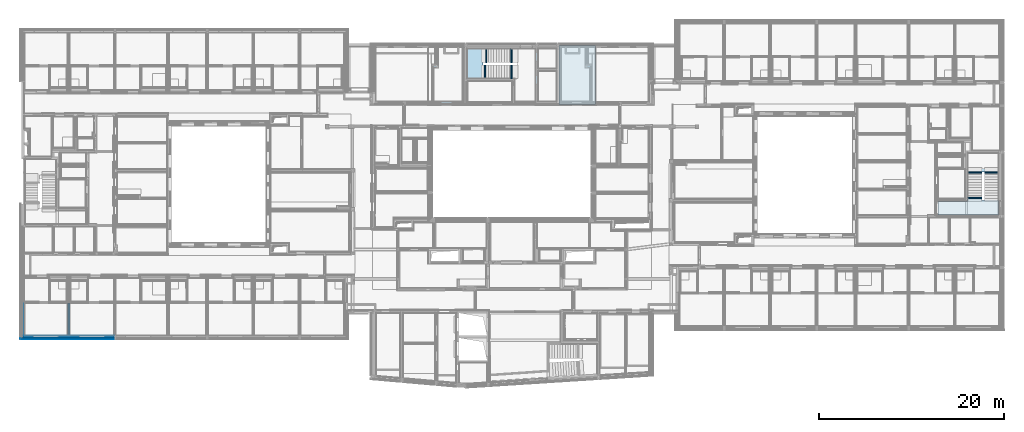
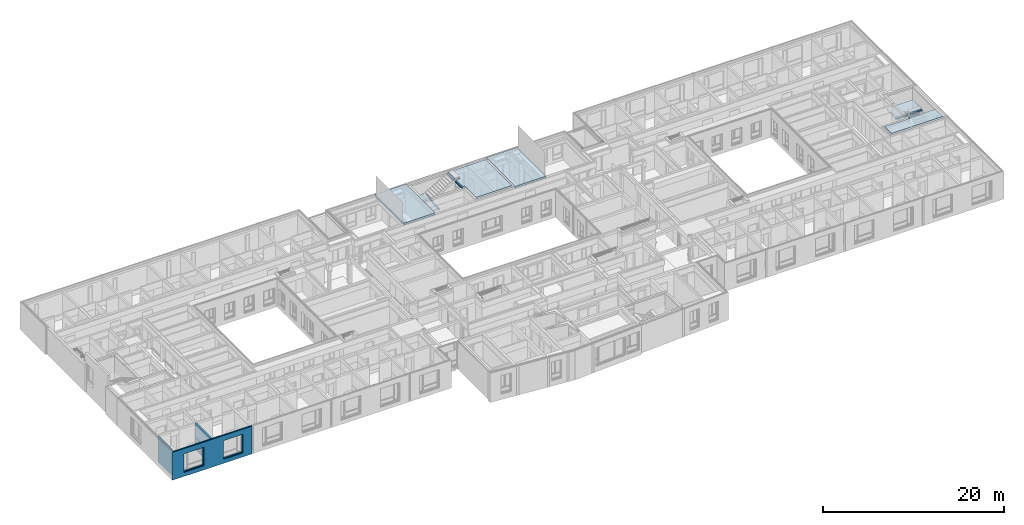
# One storey, part 9 of 222: 13 slabs, 9 walls, 14 openings.
"""IFC4 building model written with IfcOpenShell, lengths in metres."""

from ifc_helpers import new_model, entity, si_unit, converted_unit, derived_unit, frame, frame_2d, origin, origin_with_axes, place, context, subcontext, project, spatial, polyline, rectangle, outline, extrude, clip, bounded_halfspace, material, element, save


model = new_model("IFC4")

# Units and contexts
model_context = context("Model", 3, precision=1e-05, world=origin())
body_context = subcontext(model_context, "Body", "Model", "MODEL_VIEW")
ifc_project = project(units=[si_unit("LENGTHUNIT", "METRE"), si_unit("AREAUNIT", "SQUARE_METRE"), si_unit("VOLUMEUNIT", "CUBIC_METRE"), si_unit("MASSUNIT", "GRAM", prefix="KILO"), converted_unit("PLANEANGLEUNIT", "DEGREE", entity("IfcPlaneAngleMeasure", 0.0174532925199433), si_unit("PLANEANGLEUNIT", "RADIAN"), dimensions=[0, 0, 0, 0, 0, 0, 0]), derived_unit("THERMALTRANSMITTANCEUNIT", [(si_unit("POWERUNIT", "WATT"), 1), (si_unit("THERMODYNAMICTEMPERATUREUNIT", "KELVIN"), -1), (si_unit("LENGTHUNIT", "METRE"), -2)]), derived_unit("VOLUMETRICFLOWRATEUNIT", [(si_unit("LENGTHUNIT", "METRE"), 3), (converted_unit("TIMEUNIT", "hour", entity("IfcTimeMeasure", 3600.0), si_unit("TIMEUNIT", "SECOND"), dimensions=[0, 0, 1, 0, 0, 0, 0]), -1), (si_unit("LENGTHUNIT", "METRE"), -1)])], contexts=[model_context])

# Site, building, storey
site_placement = place(None, origin())
site = spatial("IfcSite", under=ifc_project, at=site_placement, Name="Psychiatrie Neubau Wunstorf", CompositionType="ELEMENT")
building_placement = place(site_placement, origin())
building = spatial("IfcBuilding", under=site, at=building_placement, Name="Neubau H2 Stationsgebäude", CompositionType="ELEMENT")
storey_placement = place(building_placement, frame((0.0, 0.0, 3.6)))
storey = spatial("IfcBuildingStorey", under=building, at=storey_placement, Name="H2 Ebene +1", CompositionType="ELEMENT", Elevation=3.6)

# Slabs
ifc_material_1 = material(Name="STB")
slab_1_placement = place(storey_placement, frame((52.895, 25.6349999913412, 3.55)))
element("IfcSlab", 1, at=slab_1_placement, inside=storey, material=ifc_material_1, PredefinedType="FLOOR", context=body_context, shape_type="SweptSolid", body=[
    extrude(rectangle(XDim=0.15, YDim=1.50000000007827, at=frame_2d((-0.075, -0.750000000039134), x_axis=(-1.0, 0.0))), frame((0.15, 1.50000000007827, 0.0), z_axis=(0.0, 0.0, 1.0), x_axis=(1.0, 0.0, 0.0)), (0.0, 0.0, 1.0), 0.16),
])
ifc_material_2 = material(Name="STB")
slab_2_placement = place(storey_placement, frame((102.369990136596, 12.6667143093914, 3.55)))
element("IfcSlab", 2, at=slab_2_placement, inside=storey, material=ifc_material_2, PredefinedType="FLOOR", context=body_context, shape_type="SweptSolid", body=[
    extrude(rectangle(XDim=0.15, YDim=1.50000986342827, at=frame_2d((0.750004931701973, -0.0749957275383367), x_axis=(0.0, -1.0))), frame((0.0, 0.15, 0.0), z_axis=(0.0, 0.0, 1.0), x_axis=(1.0, 0.0, 0.0)), (0.0, 0.0, 1.0), 0.16),
])
ifc_material_3 = material(Name="Stb")
slab_3_placement = place(storey_placement, frame((102.37, 15.4167214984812, 1.715)))
element("IfcSlab", 3, at=slab_3_placement, inside=storey, material=ifc_material_3, PredefinedType="FLOOR", context=body_context, shape_type="SweptSolid", body=[
    extrude(rectangle(XDim=1.5, YDim=0.15, at=frame_2d((0.75, 0.075), x_axis=(1.0, 0.0))), origin_with_axes(), (0.0, 0.0, 1.0), 0.14),
])
ifc_material_4 = material(Name="Stb")
slab_4_placement = place(storey_placement, frame((49.995, 25.634999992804, 1.715)))
element("IfcSlab", 4, at=slab_4_placement, inside=storey, material=ifc_material_4, PredefinedType="FLOOR", context=body_context, shape_type="SweptSolid", body=[
    extrude(rectangle(XDim=1.49999999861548, YDim=0.15, at=frame_2d((-0.075, 0.749999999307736), x_axis=(0.0, 1.0))), frame((0.15, 0.0, 0.0), z_axis=(0.0, 0.0, 1.0), x_axis=(1.0, 0.0, 0.0)), (0.0, 0.0, 1.0), 0.14),
])
ifc_material_5 = material(Name="STB")
slab_5_placement = place(storey_placement, frame((52.895, 27.3949996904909, 3.55)))
element("IfcSlab", 5, at=slab_5_placement, inside=storey, material=ifc_material_5, PredefinedType="FLOOR", context=body_context, shape_type="SweptSolid", body=[
    extrude(rectangle(XDim=0.15, YDim=1.50000000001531, at=frame_2d((-0.075, -0.750000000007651), x_axis=(-1.0, 0.0))), frame((0.15, 1.50000000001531, 0.0), z_axis=(0.0, 0.0, 1.0), x_axis=(1.0, 0.0, 0.0)), (0.0, 0.0, 1.0), 0.16),
])
ifc_material_6 = material(Name="Stb")
slab_6_placement = place(storey_placement, frame((53.045, 23.1249999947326, 3.55)))
element("IfcSlab", 6, at=slab_6_placement, inside=storey, material=ifc_material_6, PredefinedType="FLOOR", context=body_context, shape_type="SweptSolid", body=[
    extrude(outline(polyline([(4.80500000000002, 5.76999969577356), (0.0, 5.76999969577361), (0.0, 4.26999969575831), (0.485, 4.26999969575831), (0.485, 4.00999999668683), (0.0, 4.00999999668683), (0.0, 2.50999999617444), (0.255000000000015, 2.50999999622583), (0.255000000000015, 0.0), (4.80500000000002, 0.0), (4.80500000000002, 5.76999969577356)])), origin_with_axes(), (0.0, 0.0, 1.0), 0.25),
])
ifc_material_7 = material(Name="Stb")
slab_7_placement = place(storey_placement, frame((99.1389999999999, 10.8749975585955, 3.55)))
element("IfcSlab", 7, at=slab_7_placement, inside=storey, material=ifc_material_7, PredefinedType="FLOOR", context=body_context, shape_type="SweptSolid", body=[
    extrude(outline(polyline([(-3.63575000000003, -1.22293244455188), (2.94525, -1.22293010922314), (2.94525, 0.377069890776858), (1.09524999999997, 0.377069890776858), (1.09524999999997, 0.568791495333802), (-0.404750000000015, 0.568791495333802), (-0.404750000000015, 0.277069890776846), (-3.63575000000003, 0.277069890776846), (-3.63575000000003, -1.22293244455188)])), frame((3.63575000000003, 1.22293244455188, 0.0), z_axis=(0.0, 0.0, 1.0), x_axis=(1.0, 0.0, 0.0)), (0.0, 0.0, 1.0), 0.25),
])
ifc_material_8 = material(Name="H")
slab_8_placement = place(storey_placement, frame((43.9375, 22.8639999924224, 3.51)))
element("IfcSlab", 8, at=slab_8_placement, inside=storey, material=ifc_material_8, PredefinedType="FLOOR", context=body_context, shape_type="SweptSolid", body=[
    extrude(rectangle(XDim=6.39599969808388, YDim=3.96249999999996, at=frame_2d((-1.98124999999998, 3.19799984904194), x_axis=(0.0, 1.0))), frame((3.96249999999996, 0.0, 0.0), z_axis=(0.0, 0.0, 1.0), x_axis=(1.0, 0.0, 0.0)), (0.0, 0.0, 1.0), 0.24),
])
ifc_material_9 = material(Name="H")
slab_9_placement = place(storey_placement, frame((58.1, 22.8639999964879, 3.51)))
element("IfcSlab", 9, at=slab_9_placement, inside=storey, material=ifc_material_9, PredefinedType="FLOOR", context=body_context, shape_type="SweptSolid", body=[
    extrude(rectangle(XDim=3.96250000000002, YDim=6.39599969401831, at=frame_2d((1.98125000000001, 3.19799984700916), x_axis=(1.0, 9.18101907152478e-16))), origin_with_axes(), (0.0, 0.0, 1.0), 0.24),
])
ifc_material_10 = material(Name="Stb")
slab_10_placement = place(storey_placement, frame((48.15, 25.6349999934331, 1.715)))
element("IfcSlab", 10, at=slab_10_placement, inside=storey, material=ifc_material_10, PredefinedType="FLOOR", context=body_context, shape_type="SweptSolid", body=[
    extrude(outline(polyline([(1.995, 3.25999969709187), (0.0, 3.25999969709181), (0.0, 0.0), (1.845, 0.0), (1.845, 1.49999999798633), (1.7, 1.49999999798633), (1.7, 1.75999969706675), (1.995, 1.75999969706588), (1.995, 3.25999969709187)])), origin_with_axes(), (0.0, 0.0, 1.0), 0.25),
])
ifc_material_11 = material(Name="Stb")
slab_11_placement = place(storey_placement, frame((102.37, 15.5667214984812, 1.715)))
element("IfcSlab", 11, at=slab_11_placement, inside=storey, material=ifc_material_11, PredefinedType="FLOOR", context=body_context, shape_type="SweptSolid", body=[
    extrude(outline(polyline([(3.35000000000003, 0.0), (3.34999999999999, 2.0039142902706), (0.167776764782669, 2.00391429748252), (0.0, 2.00391429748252), (0.0, 0.0), (3.35000000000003, 0.0)])), origin_with_axes(), (0.0, 0.0, 1.0), 0.25),
])
ifc_material_12 = material(Name="Stb")
slab_12_placement = place(storey_placement, frame((50.145, 27.394999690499, 1.715)))
element("IfcSlab", 12, at=slab_12_placement, inside=storey, material=ifc_material_12, PredefinedType="FLOOR", context=body_context, shape_type="SweptSolid", body=[
    extrude(rectangle(XDim=1.50000000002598, YDim=0.15, at=frame_2d((-0.075, 0.750000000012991), x_axis=(0.0, 1.0))), frame((0.15, 0.0, 0.0), z_axis=(0.0, 0.0, 1.0), x_axis=(1.0, 0.0, 0.0)), (0.0, 0.0, 1.0), 0.14),
])
ifc_material_13 = material(Name="Stb")
slab_13_placement = place(storey_placement, frame((104.22, 15.4167214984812, 1.715)))
element("IfcSlab", 13, at=slab_13_placement, inside=storey, material=ifc_material_13, PredefinedType="FLOOR", context=body_context, shape_type="SweptSolid", body=[
    extrude(rectangle(XDim=1.5, YDim=0.15, at=frame_2d((0.75, 0.075), x_axis=(1.0, 0.0))), origin_with_axes(), (0.0, 0.0, 1.0), 0.14),
])

# Wall, openings
ifc_material_14 = material(Name="WA-LB")
wall_1_placement = place(storey_placement, frame((9.9, -2.16399999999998, 0.0), z_axis=(0.0, 0.0, 1.0), x_axis=(-1.0, 1.40209871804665e-16, 0.0)))
wall_1 = element("IfcWall", 14, at=wall_1_placement, inside=storey, material=ifc_material_14, context=body_context, shape_type="SweptSolid", body=[
    extrude(outline(polyline([(-9.77137313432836, -0.0360000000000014), (-0.0413731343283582, -0.0360000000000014), (0.0, 0.0), (-9.77137313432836, 0.0), (-9.77137313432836, -0.0360000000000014)])), frame((9.77137313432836, 0.0360000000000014, 0.0), z_axis=(0.0, 0.0, 1.0), x_axis=(1.0, 0.0, 0.0)), (0.0, 0.0, 1.0), 3.55),
])
opening_1_placement = place(wall_1_placement, frame((1.15, 0.0, 0.55), z_axis=(0.0, 1.0, 0.0), x_axis=(0.0, 0.0, 1.0)))
element("IfcOpeningElement", 15, at=opening_1_placement, cuts=wall_1, Name="Fensteröffnung", ObjectType="Opening", context=body_context, shape_type="SweptSolid", body=[
    extrude(outline(polyline([(2.5, 2.5), (2.5, 0.0), (0.0, 0.0), (0.0, 2.5), (2.5, 2.5)])), origin_with_axes(), (0.0, 0.0, 1.0), 0.036),
])
opening_2_placement = place(wall_1_placement, frame((6.15, 0.0, 0.55), z_axis=(0.0, 1.0, 0.0), x_axis=(0.0, 0.0, 1.0)))
element("IfcOpeningElement", 16, at=opening_2_placement, cuts=wall_1, Name="Fensteröffnung", ObjectType="Opening", context=body_context, shape_type="SweptSolid", body=[
    extrude(outline(polyline([(2.5, 2.5), (2.5, 0.0), (0.0, 0.0), (0.0, 2.5), (2.5, 2.5)])), origin_with_axes(), (0.0, 0.0, 1.0), 0.036),
])

ifc_material_15 = material(Name="WA-HD")
wall_2_placement = place(storey_placement, frame((9.9, -2.19999999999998, 0.0), z_axis=(0.0, 0.0, 1.0), x_axis=(-1.0, 1.3961620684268e-16, 0.0)))
wall_2 = element("IfcWall", 17, at=wall_2_placement, inside=storey, material=ifc_material_15, context=body_context, shape_type="Clipping", body=[
    clip(clip(extrude(outline(polyline([(-9.95525373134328, -0.160000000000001), (-0.183880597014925, -0.160000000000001), (0.0, 0.0), (-9.95525373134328, 0.0), (-9.95525373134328, -0.160000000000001)])), frame((9.95525373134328, 0.160000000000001, 0.0), z_axis=(0.0, 0.0, 1.0), x_axis=(1.0, 0.0, 0.0)), (0.0, 0.0, 1.0), 3.55), bounded_halfspace(frame((2.40000001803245, 0.0799999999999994, 0.26), z_axis=(0.0, 0.0, 1.0), x_axis=(1.0, -2.88087356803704e-17, 0.0)), True, origin_with_axes(), polyline([(1.05, 0.0), (3.7500000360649, 0.0), (3.7500000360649, 0.16), (1.05, 0.16), (1.05, 0.0)]))), bounded_halfspace(frame((7.40000001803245, 0.0800000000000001, 0.26), z_axis=(0.0, 0.0, 1.0), x_axis=(1.0, -2.88087356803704e-17, 0.0)), True, origin_with_axes(), polyline([(6.05, 0.0), (8.7500000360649, 0.0), (8.7500000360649, 0.16), (6.05, 0.16), (6.05, 0.0)]))),
])
opening_3_placement = place(wall_2_placement, frame((1.15, 0.0, 0.55), z_axis=(0.0, 1.0, 0.0), x_axis=(0.0, 0.0, 1.0)))
element("IfcOpeningElement", 18, at=opening_3_placement, cuts=wall_2, Name="Fensteröffnung", ObjectType="Opening", context=body_context, shape_type="SweptSolid", body=[
    extrude(outline(polyline([(2.5, 2.5), (2.5, 0.0), (0.0, 0.0), (0.0, 2.5), (2.5, 2.5)])), origin_with_axes(), (0.0, 0.0, 1.0), 0.16),
])
opening_4_placement = place(wall_2_placement, frame((6.15, 0.0, 0.55), z_axis=(0.0, 1.0, 0.0), x_axis=(0.0, 0.0, 1.0)))
element("IfcOpeningElement", 19, at=opening_4_placement, cuts=wall_2, Name="Fensteröffnung", ObjectType="Opening", context=body_context, shape_type="SweptSolid", body=[
    extrude(outline(polyline([(2.5, 2.5), (2.5, 0.0), (0.0, 0.0), (0.0, 2.5), (2.5, 2.5)])), origin_with_axes(), (0.0, 0.0, 1.0), 0.16),
])

ifc_material_16 = material(Name="WA-DL")
wall_3_placement = place(storey_placement, frame((9.9, -2.35999999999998, 0.0), z_axis=(0.0, 0.0, 1.0), x_axis=(-1.0, 1.37037396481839e-16, 0.0)))
wall_3 = element("IfcWall", 20, at=wall_3_placement, inside=storey, material=ifc_material_16, context=body_context, shape_type="SweptSolid", body=[
    extrude(outline(polyline([(-10.0471940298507, -0.0800000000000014), (-0.0919402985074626, -0.0800000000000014), (0.0, 0.0), (-10.0471940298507, 0.0), (-10.0471940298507, -0.0800000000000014)])), frame((10.0471940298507, 0.0800000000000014, 0.0), z_axis=(0.0, 0.0, 1.0), x_axis=(1.0, 0.0, 0.0)), (0.0, 0.0, 1.0), 3.75),
])
opening_5_placement = place(wall_3_placement, frame((1.15, 0.0, 0.55), z_axis=(0.0, 1.0, 0.0), x_axis=(0.0, 0.0, 1.0)))
element("IfcOpeningElement", 21, at=opening_5_placement, cuts=wall_3, Name="Fensteröffnung", ObjectType="Opening", context=body_context, shape_type="SweptSolid", body=[
    extrude(outline(polyline([(2.5, 2.5), (2.5, 0.0), (0.0, 0.0), (0.0, 2.5), (2.5, 2.5)])), origin_with_axes(), (0.0, 0.0, 1.0), 0.08),
])
opening_6_placement = place(wall_3_placement, frame((6.15, 0.0, 0.55), z_axis=(0.0, 1.0, 0.0), x_axis=(0.0, 0.0, 1.0)))
element("IfcOpeningElement", 22, at=opening_6_placement, cuts=wall_3, Name="Fensteröffnung", ObjectType="Opening", context=body_context, shape_type="SweptSolid", body=[
    extrude(outline(polyline([(2.5, 2.5), (2.5, 0.0), (0.0, 0.0), (0.0, 2.5), (2.5, 2.5)])), origin_with_axes(), (0.0, 0.0, 1.0), 0.08),
])

ifc_material_17 = material(Name="WA-LB")
wall_4_placement = place(storey_placement, frame((9.9, -2.43999999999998, 0.0), z_axis=(0.0, 0.0, 1.0), x_axis=(-1.0, 1.35783388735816e-16, 0.0)))
wall_4 = element("IfcWall", 23, at=wall_4_placement, inside=storey, material=ifc_material_17, context=body_context, shape_type="SweptSolid", body=[
    extrude(outline(polyline([(-10.0885671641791, -0.0360000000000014), (-0.0413731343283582, -0.0360000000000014), (0.0, 0.0), (-10.0885671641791, 0.0), (-10.0885671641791, -0.0360000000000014)])), frame((10.0885671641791, 0.0360000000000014, 0.0), z_axis=(0.0, 0.0, 1.0), x_axis=(1.0, 0.0, 0.0)), (0.0, 0.0, 1.0), 3.75),
])
opening_7_placement = place(wall_4_placement, frame((1.15, 0.0, 0.55), z_axis=(0.0, 1.0, 0.0), x_axis=(0.0, 0.0, 1.0)))
element("IfcOpeningElement", 24, at=opening_7_placement, cuts=wall_4, Name="Fensteröffnung", ObjectType="Opening", context=body_context, shape_type="SweptSolid", body=[
    extrude(outline(polyline([(2.5, 2.5), (2.5, 0.0), (0.0, 0.0), (0.0, 2.5), (2.5, 2.5)])), origin_with_axes(), (0.0, 0.0, 1.0), 0.036),
])
opening_8_placement = place(wall_4_placement, frame((6.15, 0.0, 0.55), z_axis=(0.0, 1.0, 0.0), x_axis=(0.0, 0.0, 1.0)))
element("IfcOpeningElement", 25, at=opening_8_placement, cuts=wall_4, Name="Fensteröffnung", ObjectType="Opening", context=body_context, shape_type="SweptSolid", body=[
    extrude(outline(polyline([(2.5, 2.5), (2.5, 0.0), (0.0, 0.0), (0.0, 2.5), (2.5, 2.5)])), origin_with_axes(), (0.0, 0.0, 1.0), 0.036),
])

ifc_material_18 = material(Name="WA-KL")
wall_5_placement = place(storey_placement, frame((9.9, -2.47599999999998, 0.0), z_axis=(0.0, 0.0, 1.0), x_axis=(-1.0, 1.35226542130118e-16, 0.0)))
wall_5 = element("IfcWall", 26, at=wall_5_placement, inside=storey, material=ifc_material_18, context=body_context, shape_type="SweptSolid", body=[
    extrude(outline(polyline([(-10.1161492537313, -0.0240000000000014), (-0.0275820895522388, -0.0240000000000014), (0.0, 0.0), (-10.1161492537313, 0.0), (-10.1161492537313, -0.0240000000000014)])), frame((10.1161492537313, 0.0240000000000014, 0.0), z_axis=(0.0, 0.0, 1.0), x_axis=(1.0, 0.0, 0.0)), (0.0, 0.0, 1.0), 3.75),
])
opening_9_placement = place(wall_5_placement, frame((1.15, 0.0, 0.55), z_axis=(0.0, 1.0, 0.0), x_axis=(0.0, 0.0, 1.0)))
element("IfcOpeningElement", 27, at=opening_9_placement, cuts=wall_5, Name="Fensteröffnung", ObjectType="Opening", context=body_context, shape_type="SweptSolid", body=[
    extrude(outline(polyline([(2.5, 2.5), (2.5, 0.0), (0.0, 0.0), (0.0, 2.5), (2.5, 2.5)])), origin_with_axes(), (0.0, 0.0, 1.0), 0.024),
])
opening_10_placement = place(wall_5_placement, frame((6.15, 0.0, 0.55), z_axis=(0.0, 1.0, 0.0), x_axis=(0.0, 0.0, 1.0)))
element("IfcOpeningElement", 28, at=opening_10_placement, cuts=wall_5, Name="Fensteröffnung", ObjectType="Opening", context=body_context, shape_type="SweptSolid", body=[
    extrude(outline(polyline([(2.5, 2.5), (2.5, 0.0), (0.0, 0.0), (0.0, 2.5), (2.5, 2.5)])), origin_with_axes(), (0.0, 0.0, 1.0), 0.024),
])

ifc_material_19 = material(Name="WA-TL")
wall_6_placement = place(storey_placement, frame((9.9, -2.49999999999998, 0.0), z_axis=(0.0, 0.0, 1.0), x_axis=(-1.0, 1.34857841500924e-16, 0.0)))
wall_6 = element("IfcWall", 29, at=wall_6_placement, inside=storey, material=ifc_material_19, context=body_context, shape_type="SweptSolid", body=[
    extrude(outline(polyline([(-10.1437313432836, -0.0240000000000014), (-0.0275820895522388, -0.0240000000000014), (0.0, 0.0), (-10.1437313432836, 0.0), (-10.1437313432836, -0.0240000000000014)])), frame((10.1437313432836, 0.0240000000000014, 0.0), z_axis=(0.0, 0.0, 1.0), x_axis=(1.0, 0.0, 0.0)), (0.0, 0.0, 1.0), 3.75),
])
opening_11_placement = place(wall_6_placement, frame((6.15, 0.0, 0.55), z_axis=(0.0, 1.0, 0.0), x_axis=(0.0, 0.0, 1.0)))
element("IfcOpeningElement", 30, at=opening_11_placement, cuts=wall_6, Name="Fensteröffnung", ObjectType="Opening", context=body_context, shape_type="SweptSolid", body=[
    extrude(outline(polyline([(2.5, 2.5), (2.5, 0.0), (0.0, 0.0), (0.0, 2.5), (2.5, 2.5)])), origin_with_axes(), (0.0, 0.0, 1.0), 0.024),
])
opening_12_placement = place(wall_6_placement, frame((1.15, 0.0, 0.55), z_axis=(0.0, 1.0, 0.0), x_axis=(0.0, 0.0, 1.0)))
element("IfcOpeningElement", 31, at=opening_12_placement, cuts=wall_6, Name="Fensteröffnung", ObjectType="Opening", context=body_context, shape_type="SweptSolid", body=[
    extrude(outline(polyline([(2.5, 2.5), (2.5, 0.0), (0.0, 0.0), (0.0, 2.5), (2.5, 2.5)])), origin_with_axes(), (0.0, 0.0, 1.0), 0.024),
])

ifc_material_20 = material(Name="WA-HS")
wall_7_placement = place(storey_placement, frame((9.9, -2.52399999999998, 0.0), z_axis=(0.0, 0.0, 1.0), x_axis=(-1.0, 1.34491145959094e-16, 0.0)))
wall_7 = element("IfcWall", 32, at=wall_7_placement, inside=storey, material=ifc_material_20, context=body_context, shape_type="SweptSolid", body=[
    extrude(outline(polyline([(-10.192, -0.0420000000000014), (-0.048268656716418, -0.0420000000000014), (0.0, 0.0), (-10.192, 0.0), (-10.192, -0.0420000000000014)])), frame((10.192, 0.0420000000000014, 0.0), z_axis=(0.0, 0.0, 1.0), x_axis=(1.0, 0.0, 0.0)), (0.0, 0.0, 1.0), 3.75),
])
opening_13_placement = place(wall_7_placement, frame((6.15, 0.0, 0.55), z_axis=(0.0, 1.0, 0.0), x_axis=(0.0, 0.0, 1.0)))
element("IfcOpeningElement", 33, at=opening_13_placement, cuts=wall_7, Name="Fensteröffnung", ObjectType="Opening", context=body_context, shape_type="SweptSolid", body=[
    extrude(outline(polyline([(2.5, 2.5), (2.5, 0.0), (0.0, 0.0), (0.0, 2.5), (2.5, 2.5)])), origin_with_axes(), (0.0, 0.0, 1.0), 0.042),
])
opening_14_placement = place(wall_7_placement, frame((1.15, 0.0, 0.55), z_axis=(0.0, 1.0, 0.0), x_axis=(0.0, 0.0, 1.0)))
element("IfcOpeningElement", 34, at=opening_14_placement, cuts=wall_7, Name="Fensteröffnung", ObjectType="Opening", context=body_context, shape_type="SweptSolid", body=[
    extrude(outline(polyline([(2.5, 2.5), (2.5, 0.0), (0.0, 0.0), (0.0, 2.5), (2.5, 2.5)])), origin_with_axes(), (0.0, 0.0, 1.0), 0.042),
])

# Walls
ifc_material_21 = material(Name="WI-LB")
wall_8_placement = place(storey_placement, frame((4.9, 1.35874963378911, 0.0), z_axis=(0.0, 0.0, 1.0), x_axis=(0.0, -1.0, 0.0)))
element("IfcWall", 35, at=wall_8_placement, inside=storey, material=ifc_material_21, context=body_context, shape_type="SweptSolid", body=[
    extrude(rectangle(XDim=3.52274963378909, YDim=0.2, at=frame_2d((1.76137481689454, 0.1), x_axis=(1.0, 0.0))), origin_with_axes(), (0.0, 0.0, 1.0), 3.55),
])
ifc_material_22 = material(Name="WI-LB")
wall_9_placement = place(storey_placement, frame((0.168999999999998, 1.3587496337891, 0.0), z_axis=(0.0, 0.0, 1.0), x_axis=(-2.50109455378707e-16, -1.0, 0.0)))
element("IfcWall", 36, at=wall_9_placement, inside=storey, material=ifc_material_22, context=body_context, shape_type="SweptSolid", body=[
    extrude(rectangle(XDim=3.52274963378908, YDim=0.075, at=frame_2d((1.76137481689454, 0.0375), x_axis=(1.0, 0.0))), origin_with_axes(), (0.0, 0.0, 1.0), 3.5),
])

save(model, "model.ifc")
